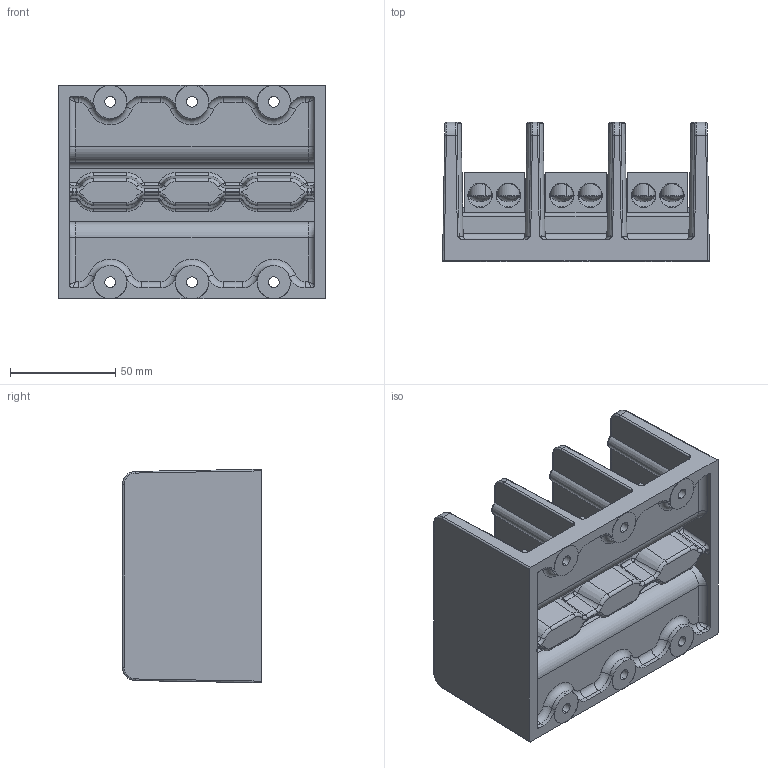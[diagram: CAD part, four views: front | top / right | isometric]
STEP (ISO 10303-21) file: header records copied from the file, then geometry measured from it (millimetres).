
FILE_DESCRIPTION (( 'STEP AP214' ), '1' );
FILE_NAME ('1433555.STEP', '2012-02-03T21:46:08', ( 'RBC' ), ( 'RBC' ), 'SwSTEP 2.0', 'SolidWorks 2011', '' );
FILE_SCHEMA (( 'AUTOMOTIVE_DESIGN' ));
Length unit declared in the file: inch
Products named in the file (6): 97016xx_9701652; 9799207; 98125XX_9812547; 9803400; 9812103; 1433555
Assembly tree (34 placements, depth 2):
  1433555
    98125XX_9812547  x6
    9799207  x6
    9812103
    97016xx_9701652  x18
    9803400  x3
Bounding box: 127 x 66.19 x 101.7 mm (x, y, z)
Volume: 289594.8 mm3; surface area: 126384.4 mm2
Topology: 34 solids, 34 shells, 1483 faces, 3645 edges, 2221 vertices
Faces by surface type: plane 529, cylinder 471, cone 251, torus 116, sphere 60, bspline 56
Entity records: 26980 total; most frequent: CARTESIAN_POINT 7137, DIRECTION 4178, ORIENTED_EDGE 4050, EDGE_CURVE 2025, AXIS2_PLACEMENT_3D 1622, VERTEX_POINT 1223, VECTOR 934, LINE 934
